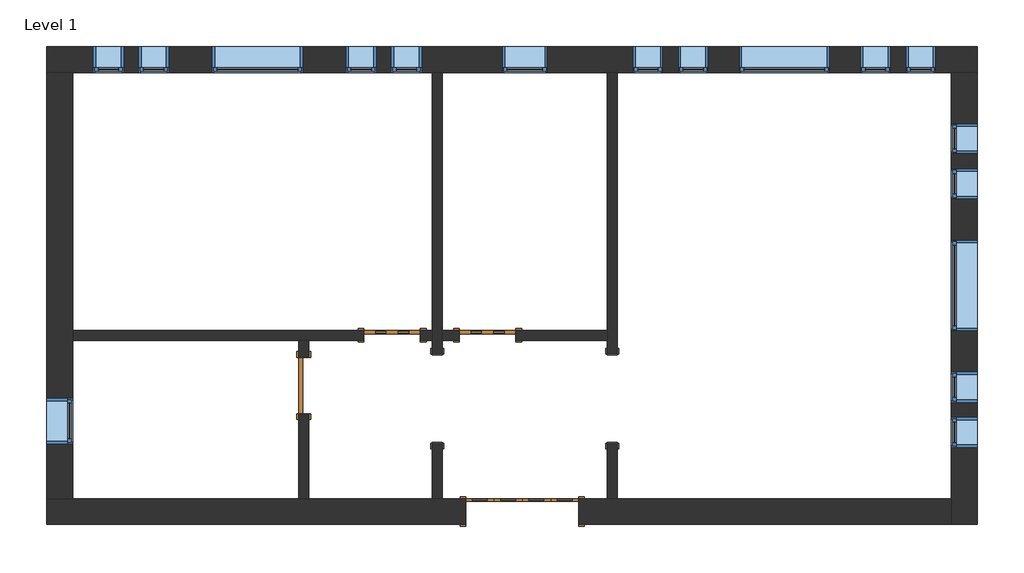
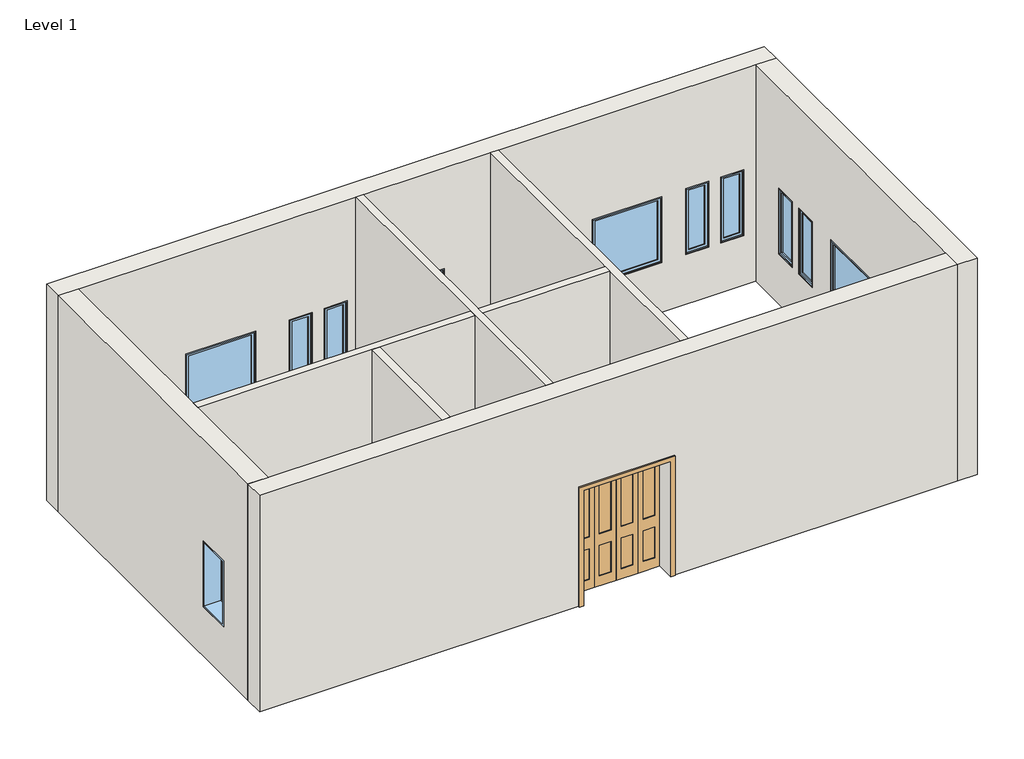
# One storey: 17 windows, 8 walls, 4 doors, 2 proxies.
"""IFC4 building model written with IfcOpenShell, lengths in millimetres."""

from ifc_helpers import new_model, si_unit, frame, origin, place, context, project, spatial, polyline, outline, extrude, faceted_brep, transform, mapped, element, save
from components import m_passage_opening_cased_1220_x_2134mm_87a8d9c2, m_bifold_4_panel_1525_x_2134mm_1ddae71f, m_single_decorative_2_0762_x_2134mm_0d0af7cb, m_single_decorative_2_0762_x_2134mm_2fe67c8e, m_single_flush_0762_x_2134mm_0d89e411, m_fixed_0406_x_1220mm_57fee329, m_fixed_0406_x_1220mm_85c28f40, m_fixed_0610_x_1220mm_2c28ef1d, m_fixed_1220_x_1220mm_e08ff7af

model = new_model("IFC4")

# Units and contexts
model_context = context("Model", 3, world=origin())
ifc_project = project(units=[si_unit("LENGTHUNIT", "METRE", prefix="MILLI")], contexts=[model_context])

# Site, building, storey
site = spatial("IfcSite", under=ifc_project)
building = spatial("IfcBuilding", under=site)
storey = spatial("IfcBuildingStorey", under=building, Name="Level 1", Elevation=0.0)

# Proxies
placement = place(None, origin())
m_passage_opening_cased_1220_x_2134mm_shape = m_passage_opening_cased_1220_x_2134mm_87a8d9c2(model_context)
element("IfcBuildingElementProxy", 1, Name="M_Passage Opening-Cased : 1220 x 2134mm", ObjectType="M_Passage Opening-Cased : 1220 x 2134mm", at=placement, inside=storey, context=model_context, shape_type="MappedRepresentation", body=[
    mapped(m_passage_opening_cased_1220_x_2134mm_shape, transform((-7665.3416203, -1982.6925047, 0.0), x_axis=(0.0, 1.0, 0.0), y_axis=(-1.0, 0.0, 0.0), z_axis=(0.0, 0.0, 1.0))),
])
element("IfcBuildingElementProxy", 2, Name="M_Passage Opening-Cased : 1220 x 2134mm", ObjectType="M_Passage Opening-Cased : 1220 x 2134mm", at=placement, inside=storey, context=model_context, shape_type="MappedRepresentation", body=[
    mapped(m_passage_opening_cased_1220_x_2134mm_shape, transform((-10019.0916203, -1999.0698181, 0.0), x_axis=(0.0, -1.0, 0.0), y_axis=(1.0, 0.0, 0.0), z_axis=(0.0, 0.0, 1.0))),
])

# Doors
m_bifold_4_panel_1525_x_2134mm_shape = m_bifold_4_panel_1525_x_2134mm_1ddae71f(model_context)
element("IfcDoor", 3, ObjectType="M_Bifold-4 Panel : 1525 x 2134mm", at=placement, inside=storey, context=model_context, shape_type="MappedRepresentation", body=[
    mapped(m_bifold_4_panel_1525_x_2134mm_shape, transform((-8876.0916203, -3514.8811614, 0.0), x_axis=(1.0, 0.0, 0.0), y_axis=(0.0, 1.0, 0.0), z_axis=(0.0, 0.0, 1.0))),
])
m_single_decorative_2_0762_x_2134mm_shape = m_single_decorative_2_0762_x_2134mm_0d0af7cb(model_context)
element("IfcDoor", 4, ObjectType="M_Single-Decorative 2 : 0762 x 2134mm", at=placement, inside=storey, context=model_context, shape_type="MappedRepresentation", body=[
    mapped(m_single_decorative_2_0762_x_2134mm_shape, transform((-9342.3416203, -1138.1311614, 0.0), x_axis=(-1.0, 0.0, 0.0), y_axis=(0.0, -1.0, 0.0), z_axis=(0.0, 0.0, 1.0))),
])
m_single_decorative_2_0762_x_2134mm_2_shape = m_single_decorative_2_0762_x_2134mm_2fe67c8e(model_context)
element("IfcDoor", 5, ObjectType="M_Single-Decorative 2 : 0762 x 2134mm", at=placement, inside=storey, context=model_context, shape_type="MappedRepresentation", body=[
    mapped(m_single_decorative_2_0762_x_2134mm_2_shape, transform((-10629.0916203, -1138.1311614, 0.0), x_axis=(1.0, 0.0, 0.0), y_axis=(0.0, 1.0, 0.0), z_axis=(0.0, 0.0, 1.0))),
])
m_single_flush_0762_x_2134mm_shape = m_single_flush_0762_x_2134mm_0d89e411(model_context)
element("IfcDoor", 6, ObjectType="M_Single-Flush : 0762 x 2134mm", at=placement, inside=storey, context=model_context, shape_type="MappedRepresentation", body=[
    mapped(m_single_flush_0762_x_2134mm_shape, transform((-11819.5916203, -1815.8811614, 0.0), x_axis=(0.0, 1.0, 0.0), y_axis=(-1.0, 0.0, 0.0), z_axis=(0.0, 0.0, 1.0))),
])

# Walls
element("IfcWall", 7, ObjectType="Exterior - Brick on Mtl. Stud", at=placement, inside=storey, context=model_context, shape_type="Brep", body=[
    faceted_brep([(-15285.3416203, 2406.1188386, 0.0), (-14935.3416203, 2406.1188386, 0.0), (-10086.8416203, 2406.1188386, 0.0), (-9951.3416203, 2406.1188386, 0.0), (-7733.0916203, 2406.1188386, 0.0), (-7597.5916203, 2406.1188386, 0.0), (-3093.3416203, 2406.1188386, 0.0), (-2743.3416203, 2406.1188386, 0.0), (-2743.3416203, 2406.1188386, 4000.0), (-3093.3416203, 2406.1188386, 4000.0), (-7597.5916203, 2406.1188386, 4000.0), (-7733.0916203, 2406.1188386, 4000.0), (-9951.3416203, 2406.1188386, 4000.0), (-10086.8416203, 2406.1188386, 4000.0), (-14935.3416203, 2406.1188386, 4000.0), (-15285.3416203, 2406.1188386, 4000.0), (-8537.1916203, 2406.1188386, 915.0), (-9147.1916203, 2406.1188386, 915.0), (-9147.1916203, 2406.1188386, 2135.0), (-8537.1916203, 2406.1188386, 2135.0), (-11833.3416203, 2406.1188386, 915.0), (-13053.3416203, 2406.1188386, 915.0), (-13053.3416203, 2406.1188386, 2135.0), (-11833.3416203, 2406.1188386, 2135.0), (-4735.4666203, 2406.1188386, 915.0), (-5955.4666203, 2406.1188386, 915.0), (-5955.4666203, 2406.1188386, 2135.0), (-4735.4666203, 2406.1188386, 2135.0), (-14247.3416203, 2406.1188386, 915.0), (-14653.3416203, 2406.1188386, 915.0), (-14653.3416203, 2406.1188386, 2135.0), (-14247.3416203, 2406.1188386, 2135.0), (-13637.3416203, 2406.1188386, 915.0), (-14043.3416203, 2406.1188386, 915.0), (-14043.3416203, 2406.1188386, 2135.0), (-13637.3416203, 2406.1188386, 2135.0), (-11249.3416203, 2406.1188386, 915.0), (-11249.3416203, 2406.1188386, 2135.0), (-10843.3416203, 2406.1188386, 2135.0), (-10843.3416203, 2406.1188386, 915.0), (-10639.3416203, 2406.1188386, 915.0), (-10639.3416203, 2406.1188386, 2135.0), (-10233.3416203, 2406.1188386, 2135.0), (-10233.3416203, 2406.1188386, 915.0), (-6370.3416203, 2406.1188386, 915.0), (-6776.3416203, 2406.1188386, 915.0), (-6776.3416203, 2406.1188386, 2135.0), (-6370.3416203, 2406.1188386, 2135.0), (-6980.3416203, 2406.1188386, 915.0), (-7386.3416203, 2406.1188386, 915.0), (-7386.3416203, 2406.1188386, 2135.0), (-6980.3416203, 2406.1188386, 2135.0), (-4320.5916203, 2406.1188386, 915.0), (-4320.5916203, 2406.1188386, 2135.0), (-3914.5916203, 2406.1188386, 2135.0), (-3914.5916203, 2406.1188386, 915.0), (-3710.5916203, 2406.1188386, 915.0), (-3710.5916203, 2406.1188386, 2135.0), (-3304.5916203, 2406.1188386, 2135.0), (-3304.5916203, 2406.1188386, 915.0), (-15285.3416203, 2756.1188386, 0.0), (-15285.3416203, 2756.1188386, 4000.0), (-2743.3416203, 2756.1188386, 4000.0), (-2743.3416203, 2756.1188386, 0.0), (-8537.1916203, 2756.1188386, 915.0), (-8537.1916203, 2756.1188386, 2135.0), (-9147.1916203, 2756.1188386, 2135.0), (-9147.1916203, 2756.1188386, 915.0), (-11833.3416203, 2756.1188386, 915.0), (-11833.3416203, 2756.1188386, 2135.0), (-13053.3416203, 2756.1188386, 2135.0), (-13053.3416203, 2756.1188386, 915.0), (-4735.4666203, 2756.1188386, 915.0), (-4735.4666203, 2756.1188386, 2135.0), (-5955.4666203, 2756.1188386, 2135.0), (-5955.4666203, 2756.1188386, 915.0), (-14247.3416203, 2756.1188386, 915.0), (-14247.3416203, 2756.1188386, 2135.0), (-14653.3416203, 2756.1188386, 2135.0), (-14653.3416203, 2756.1188386, 915.0), (-13637.3416203, 2756.1188386, 915.0), (-13637.3416203, 2756.1188386, 2135.0), (-14043.3416203, 2756.1188386, 2135.0), (-14043.3416203, 2756.1188386, 915.0), (-11249.3416203, 2756.1188386, 915.0), (-10843.3416203, 2756.1188386, 915.0), (-10843.3416203, 2756.1188386, 2135.0), (-11249.3416203, 2756.1188386, 2135.0), (-10639.3416203, 2756.1188386, 915.0), (-10233.3416203, 2756.1188386, 915.0), (-10233.3416203, 2756.1188386, 2135.0), (-10639.3416203, 2756.1188386, 2135.0), (-6370.3416203, 2756.1188386, 915.0), (-6370.3416203, 2756.1188386, 2135.0), (-6776.3416203, 2756.1188386, 2135.0), (-6776.3416203, 2756.1188386, 915.0), (-6980.3416203, 2756.1188386, 915.0), (-6980.3416203, 2756.1188386, 2135.0), (-7386.3416203, 2756.1188386, 2135.0), (-7386.3416203, 2756.1188386, 915.0), (-4320.5916203, 2756.1188386, 915.0), (-3914.5916203, 2756.1188386, 915.0), (-3914.5916203, 2756.1188386, 2135.0), (-4320.5916203, 2756.1188386, 2135.0), (-3710.5916203, 2756.1188386, 915.0), (-3304.5916203, 2756.1188386, 915.0), (-3304.5916203, 2756.1188386, 2135.0), (-3710.5916203, 2756.1188386, 2135.0)], [[[0, 1, 2, 3, 4, 5, 6, 7, 8, 9, 10, 11, 12, 13, 14, 15], [16, 17, 18, 19], [20, 21, 22, 23], [24, 25, 26, 27], [28, 29, 30, 31], [32, 33, 34, 35], [36, 37, 38, 39], [40, 41, 42, 43], [44, 45, 46, 47], [48, 49, 50, 51], [52, 53, 54, 55], [56, 57, 58, 59]], [[60, 61, 62, 63], [64, 65, 66, 67], [68, 69, 70, 71], [72, 73, 74, 75], [76, 77, 78, 79], [80, 81, 82, 83], [84, 85, 86, 87], [88, 89, 90, 91], [92, 93, 94, 95], [96, 97, 98, 99], [100, 101, 102, 103], [104, 105, 106, 107]], [[7, 6, 5, 4, 3, 2, 1, 0, 60, 63]], [[15, 14, 13, 12, 11, 10, 9, 8, 62, 61]], [[8, 7, 63, 62]], [[0, 15, 61, 60]], [[65, 64, 16, 19]], [[66, 65, 19, 18]], [[67, 66, 18, 17]], [[64, 67, 17, 16]], [[69, 68, 20, 23]], [[70, 69, 23, 22]], [[71, 70, 22, 21]], [[68, 71, 21, 20]], [[73, 72, 24, 27]], [[74, 73, 27, 26]], [[75, 74, 26, 25]], [[72, 75, 25, 24]], [[77, 76, 28, 31]], [[78, 77, 31, 30]], [[79, 78, 30, 29]], [[76, 79, 29, 28]], [[81, 80, 32, 35]], [[82, 81, 35, 34]], [[83, 82, 34, 33]], [[80, 83, 33, 32]], [[37, 36, 84, 87]], [[38, 37, 87, 86]], [[39, 38, 86, 85]], [[36, 39, 85, 84]], [[41, 40, 88, 91]], [[42, 41, 91, 90]], [[43, 42, 90, 89]], [[40, 43, 89, 88]], [[93, 92, 44, 47]], [[94, 93, 47, 46]], [[95, 94, 46, 45]], [[92, 95, 45, 44]], [[97, 96, 48, 51]], [[98, 97, 51, 50]], [[99, 98, 50, 49]], [[96, 99, 49, 48]], [[53, 52, 100, 103]], [[54, 53, 103, 102]], [[55, 54, 102, 101]], [[52, 55, 101, 100]], [[57, 56, 104, 107]], [[58, 57, 107, 106]], [[59, 58, 106, 105]], [[56, 59, 105, 104]]]),
])
element("IfcWall", 8, ObjectType="Exterior - Brick on Mtl. Stud", at=placement, inside=storey, context=model_context, shape_type="Brep", body=[
    faceted_brep([(-3093.3416203, 2406.1188386, 0.0), (-3093.3416203, -3339.8811614, 0.0), (-3093.3416203, -3689.8811614, 0.0), (-3093.3416203, -3689.8811614, 4000.0), (-3093.3416203, -3339.8811614, 4000.0), (-3093.3416203, 2406.1188386, 4000.0), (-3093.3416203, -1076.8811614, 915.0), (-3093.3416203, 143.1188386, 915.0), (-3093.3416203, 143.1188386, 2135.0), (-3093.3416203, -1076.8811614, 2135.0), (-3093.3416203, 701.1188386, 915.0), (-3093.3416203, 1107.1188386, 915.0), (-3093.3416203, 1107.1188386, 2135.0), (-3093.3416203, 701.1188386, 2135.0), (-3093.3416203, 1311.1188386, 915.0), (-3093.3416203, 1717.1188386, 915.0), (-3093.3416203, 1717.1188386, 2135.0), (-3093.3416203, 1311.1188386, 2135.0), (-3093.3416203, -1634.8811614, 915.0), (-3093.3416203, -1634.8811614, 2135.0), (-3093.3416203, -2040.8811614, 2135.0), (-3093.3416203, -2040.8811614, 915.0), (-3093.3416203, -2244.8811614, 915.0), (-3093.3416203, -2244.8811614, 2135.0), (-3093.3416203, -2650.8811614, 2135.0), (-3093.3416203, -2650.8811614, 915.0), (-2743.3416203, 2406.1188386, 0.0), (-2743.3416203, 2406.1188386, 4000.0), (-2743.3416203, -3689.8811614, 4000.0), (-2743.3416203, -3689.8811614, 0.0), (-2743.3416203, -1076.8811614, 915.0), (-2743.3416203, -1076.8811614, 2135.0), (-2743.3416203, 143.1188386, 2135.0), (-2743.3416203, 143.1188386, 915.0), (-2743.3416203, 701.1188386, 915.0), (-2743.3416203, 701.1188386, 2135.0), (-2743.3416203, 1107.1188386, 2135.0), (-2743.3416203, 1107.1188386, 915.0), (-2743.3416203, 1311.1188386, 915.0), (-2743.3416203, 1311.1188386, 2135.0), (-2743.3416203, 1717.1188386, 2135.0), (-2743.3416203, 1717.1188386, 915.0), (-2743.3416203, -1634.8811614, 915.0), (-2743.3416203, -2040.8811614, 915.0), (-2743.3416203, -2040.8811614, 2135.0), (-2743.3416203, -1634.8811614, 2135.0), (-2743.3416203, -2244.8811614, 915.0), (-2743.3416203, -2650.8811614, 915.0), (-2743.3416203, -2650.8811614, 2135.0), (-2743.3416203, -2244.8811614, 2135.0)], [[[0, 1, 2, 3, 4, 5], [6, 7, 8, 9], [10, 11, 12, 13], [14, 15, 16, 17], [18, 19, 20, 21], [22, 23, 24, 25]], [[26, 27, 28, 29], [30, 31, 32, 33], [34, 35, 36, 37], [38, 39, 40, 41], [42, 43, 44, 45], [46, 47, 48, 49]], [[2, 1, 0, 26, 29]], [[5, 4, 3, 28, 27]], [[0, 5, 27, 26]], [[3, 2, 29, 28]], [[31, 30, 6, 9]], [[32, 31, 9, 8]], [[33, 32, 8, 7]], [[30, 33, 7, 6]], [[35, 34, 10, 13]], [[36, 35, 13, 12]], [[37, 36, 12, 11]], [[34, 37, 11, 10]], [[39, 38, 14, 17]], [[40, 39, 17, 16]], [[41, 40, 16, 15]], [[38, 41, 15, 14]], [[19, 18, 42, 45]], [[20, 19, 45, 44]], [[21, 20, 44, 43]], [[18, 21, 43, 42]], [[23, 22, 46, 49]], [[24, 23, 49, 48]], [[25, 24, 48, 47]], [[22, 25, 47, 46]]]),
])
element("IfcWall", 9, ObjectType="Exterior - Brick on Mtl. Stud", at=placement, inside=storey, context=model_context, shape_type="Brep", body=[
    faceted_brep([(-15285.3416203, -3339.8811614, 4000.0), (-14935.3416203, -3339.8811614, 4000.0), (-11887.3416203, -3339.8811614, 4000.0), (-11751.8416203, -3339.8811614, 4000.0), (-10086.8416203, -3339.8811614, 4000.0), (-9951.3416203, -3339.8811614, 4000.0), (-7733.0916203, -3339.8811614, 4000.0), (-7597.5916203, -3339.8811614, 4000.0), (-3093.3416203, -3339.8811614, 4000.0), (-3093.3416203, -3339.8811614, 0.0), (-7597.5916203, -3339.8811614, 0.0), (-7733.0916203, -3339.8811614, 0.0), (-8113.5916203, -3339.8811614, 0.0), (-8113.5916203, -3339.8811614, 2134.0), (-9638.5916203, -3339.8811614, 2134.0), (-9638.5916203, -3339.8811614, 0.0), (-9951.3416203, -3339.8811614, 0.0), (-10086.8416203, -3339.8811614, 0.0), (-11751.8416203, -3339.8811614, 0.0), (-11887.3416203, -3339.8811614, 0.0), (-14935.3416203, -3339.8811614, 0.0), (-15285.3416203, -3339.8811614, 0.0), (-3093.3416203, -3689.8811614, 4000.0), (-15285.3416203, -3689.8811614, 4000.0), (-15285.3416203, -3689.8811614, 0.0), (-9638.5916203, -3689.8811614, 0.0), (-9638.5916203, -3689.8811614, 2134.0), (-8113.5916203, -3689.8811614, 2134.0), (-8113.5916203, -3689.8811614, 0.0), (-3093.3416203, -3689.8811614, 0.0)], [[[0, 1, 2, 3, 4, 5, 6, 7, 8, 9, 10, 11, 12, 13, 14, 15, 16, 17, 18, 19, 20, 21]], [[22, 23, 24, 25, 26, 27, 28, 29]], [[9, 29, 28, 12, 11, 10]], [[24, 21, 20, 19, 18, 17, 16, 15, 25]], [[8, 7, 6, 5, 4, 3, 2, 1, 0, 23, 22]], [[9, 8, 22, 29]], [[0, 21, 24, 23]], [[27, 13, 12, 28]], [[13, 27, 26, 14]], [[14, 26, 25, 15]]]),
])
element("IfcWall", 10, ObjectType="Exterior - Brick on Mtl. Stud", at=placement, inside=storey, context=model_context, shape_type="Brep", body=[
    faceted_brep([(-14935.3416203, -3339.8811614, 0.0), (-14935.3416203, -1205.8811614, 0.0), (-14935.3416203, -1070.3811614, 0.0), (-14935.3416203, 2406.1188386, 0.0), (-14935.3416203, 2406.1188386, 4000.0), (-14935.3416203, -1070.3811614, 4000.0), (-14935.3416203, -1205.8811614, 4000.0), (-14935.3416203, -3339.8811614, 4000.0), (-14935.3416203, -1989.8811614, 915.0), (-14935.3416203, -2599.8811614, 915.0), (-14935.3416203, -2599.8811614, 2135.0), (-14935.3416203, -1989.8811614, 2135.0), (-15285.3416203, -3339.8811614, 0.0), (-15285.3416203, -3339.8811614, 4000.0), (-15285.3416203, 2406.1188386, 4000.0), (-15285.3416203, 2406.1188386, 0.0), (-15285.3416203, -1989.8811614, 915.0), (-15285.3416203, -1989.8811614, 2135.0), (-15285.3416203, -2599.8811614, 2135.0), (-15285.3416203, -2599.8811614, 915.0)], [[[0, 1, 2, 3, 4, 5, 6, 7], [8, 9, 10, 11]], [[12, 13, 14, 15], [16, 17, 18, 19]], [[3, 2, 1, 0, 12, 15]], [[7, 6, 5, 4, 14, 13]], [[0, 7, 13, 12]], [[4, 3, 15, 14]], [[17, 16, 8, 11]], [[18, 17, 11, 10]], [[19, 18, 10, 9]], [[16, 19, 9, 8]]]),
])
element("IfcWall", 11, ObjectType="Interior - 135mm Partition (2-hr)", at=placement, inside=storey, context=model_context, shape_type="Brep", body=[
    faceted_brep([(-7733.0916203, 2406.1188386, 0.0), (-7733.0916203, -1070.3811614, 0.0), (-7733.0916203, -1205.8811614, 0.0), (-7733.0916203, -1380.8811614, 0.0), (-7733.0916203, -1380.8811614, 2134.0), (-7733.0916203, -2600.8811614, 2134.0), (-7733.0916203, -2600.8811614, 0.0), (-7733.0916203, -3339.8811614, 0.0), (-7733.0916203, -3339.8811614, 4000.0), (-7733.0916203, -1205.8811614, 4000.0), (-7733.0916203, -1070.3811614, 4000.0), (-7733.0916203, 2406.1188386, 4000.0), (-7597.5916203, -1380.8811614, 2134.0), (-7597.5916203, -1380.8811614, 0.0), (-7597.5916203, 2406.1188386, 0.0), (-7597.5916203, 2406.1188386, 4000.0), (-7597.5916203, -3339.8811614, 4000.0), (-7597.5916203, -3339.8811614, 0.0), (-7597.5916203, -2600.8811614, 0.0), (-7597.5916203, -2600.8811614, 2134.0)], [[[0, 1, 2, 3, 4, 5, 6, 7, 8, 9, 10, 11]], [[12, 13, 14, 15, 16, 17, 18, 19]], [[18, 17, 7, 6]], [[14, 13, 3, 2, 1, 0]], [[11, 10, 9, 8, 16, 15]], [[0, 11, 15, 14]], [[8, 7, 17, 16]], [[6, 5, 19, 18]], [[4, 3, 13, 12]], [[5, 4, 12, 19]]]),
])
element("IfcWall", 12, ObjectType="Interior - 135mm Partition (2-hr)", at=placement, inside=storey, context=model_context, shape_type="Brep", body=[
    faceted_brep([(-10086.8416203, -2600.8811614, 2134.0), (-10086.8416203, -2600.8811614, 0.0), (-10086.8416203, -3339.8811614, 0.0), (-10086.8416203, -3339.8811614, 4000.0), (-10086.8416203, -1205.8811614, 4000.0), (-10086.8416203, -1070.3811614, 4000.0), (-10086.8416203, 2406.1188386, 4000.0), (-10086.8416203, 2406.1188386, 0.0), (-10086.8416203, -1070.3811614, 0.0), (-10086.8416203, -1205.8811614, 0.0), (-10086.8416203, -1380.8811614, 0.0), (-10086.8416203, -1380.8811614, 2134.0), (-9951.3416203, -3339.8811614, 0.0), (-9951.3416203, -2600.8811614, 0.0), (-9951.3416203, -2600.8811614, 2134.0), (-9951.3416203, -1380.8811614, 2134.0), (-9951.3416203, -1380.8811614, 0.0), (-9951.3416203, -1205.8811614, 0.0), (-9951.3416203, -1070.3811614, 0.0), (-9951.3416203, 2406.1188386, 0.0), (-9951.3416203, 2406.1188386, 4000.0), (-9951.3416203, -1070.3811614, 4000.0), (-9951.3416203, -1205.8811614, 4000.0), (-9951.3416203, -3339.8811614, 4000.0)], [[[0, 1, 2, 3, 4, 5, 6, 7, 8, 9, 10, 11]], [[12, 13, 14, 15, 16, 17, 18, 19, 20, 21, 22, 23]], [[2, 1, 13, 12]], [[10, 9, 8, 7, 19, 18, 17, 16]], [[6, 5, 4, 3, 23, 22, 21, 20]], [[7, 6, 20, 19]], [[3, 2, 12, 23]], [[16, 15, 11, 10]], [[14, 13, 1, 0]], [[15, 14, 0, 11]]]),
])
element("IfcWall", 13, ObjectType="Interior - 135mm Partition (2-hr)", at=placement, inside=storey, context=model_context, shape_type="Brep", body=[
    faceted_brep([(-14935.3416203, -1205.8811614, 4000.0), (-14935.3416203, -1205.8811614, 0.0), (-11887.3416203, -1205.8811614, 0.0), (-11751.8416203, -1205.8811614, 0.0), (-11010.0916203, -1205.8811614, 0.0), (-11010.0916203, -1205.8811614, 2134.0), (-10248.0916203, -1205.8811614, 2134.0), (-10248.0916203, -1205.8811614, 0.0), (-10086.8416203, -1205.8811614, 0.0), (-10086.8416203, -1205.8811614, 4000.0), (-11751.8416203, -1205.8811614, 4000.0), (-11887.3416203, -1205.8811614, 4000.0), (-14935.3416203, -1070.3811614, 0.0), (-14935.3416203, -1070.3811614, 4000.0), (-10086.8416203, -1070.3811614, 4000.0), (-10086.8416203, -1070.3811614, 0.0), (-10248.0916203, -1070.3811614, 0.0), (-10248.0916203, -1070.3811614, 2134.0), (-11010.0916203, -1070.3811614, 2134.0), (-11010.0916203, -1070.3811614, 0.0)], [[[0, 1, 2, 3, 4, 5, 6, 7, 8, 9, 10, 11]], [[12, 13, 14, 15, 16, 17, 18, 19]], [[1, 12, 19, 4, 3, 2]], [[7, 16, 15, 8]], [[13, 0, 11, 10, 9, 14]], [[1, 0, 13, 12]], [[9, 8, 15, 14]], [[17, 16, 7, 6]], [[18, 17, 6, 5]], [[19, 18, 5, 4]]]),
    faceted_brep([(-7733.0916203, -1205.8811614, 0.0), (-7733.0916203, -1205.8811614, 4000.0), (-9951.3416203, -1205.8811614, 4000.0), (-9951.3416203, -1205.8811614, 0.0), (-9723.3416203, -1205.8811614, 0.0), (-9723.3416203, -1205.8811614, 2134.0), (-8961.3416203, -1205.8811614, 2134.0), (-8961.3416203, -1205.8811614, 0.0), (-7733.0916203, -1070.3811614, 4000.0), (-7733.0916203, -1070.3811614, 0.0), (-8961.3416203, -1070.3811614, 0.0), (-8961.3416203, -1070.3811614, 2134.0), (-9723.3416203, -1070.3811614, 2134.0), (-9723.3416203, -1070.3811614, 0.0), (-9951.3416203, -1070.3811614, 0.0), (-9951.3416203, -1070.3811614, 4000.0)], [[[0, 1, 2, 3, 4, 5, 6, 7]], [[8, 9, 10, 11, 12, 13, 14, 15]], [[9, 0, 7, 10]], [[13, 4, 3, 14]], [[1, 8, 15, 2]], [[1, 0, 9, 8]], [[3, 2, 15, 14]], [[5, 4, 13, 12]], [[6, 5, 12, 11]], [[7, 6, 11, 10]]]),
])
element("IfcWall", 14, ObjectType="Interior - 135mm Partition (2-hr)", at=placement, inside=storey, context=model_context, shape_type="SweptSolid", body=[
    extrude(outline(polyline([(-1205.8811614, 0.0), (-1434.8811614, 0.0), (-1434.8811614, 2134.0), (-2196.8811614, 2134.0), (-2196.8811614, 0.0), (-3339.8811614, 0.0), (-3339.8811614, 4000.0), (-1205.8811614, 4000.0), (-1205.8811614, 0.0)])), frame((-11887.3416203, 0.0, 0.0), z_axis=(1.0, 0.0, 0.0), x_axis=(0.0, 1.0, 0.0)), (0.0, 0.0, 1.0), 135.5),
])

# Windows
m_fixed_0406_x_1220mm_shape = m_fixed_0406_x_1220mm_57fee329(model_context)
element("IfcWindow", 15, ObjectType="M_Fixed : 0406 x 1220mm", at=placement, inside=storey, context=model_context, shape_type="MappedRepresentation", body=[
    mapped(m_fixed_0406_x_1220mm_shape, transform((-14450.3416203, 2594.1188386, 0.0), x_axis=(-1.0, 0.0, 0.0), y_axis=(0.0, -1.0, 0.0), z_axis=(0.0, 0.0, 1.0))),
])
element("IfcWindow", 16, ObjectType="M_Fixed : 0406 x 1220mm", at=placement, inside=storey, context=model_context, shape_type="MappedRepresentation", body=[
    mapped(m_fixed_0406_x_1220mm_shape, transform((-13840.3416203, 2594.1188386, 0.0), x_axis=(-1.0, 0.0, 0.0), y_axis=(0.0, -1.0, 0.0), z_axis=(0.0, 0.0, 1.0))),
])
element("IfcWindow", 17, ObjectType="M_Fixed : 0406 x 1220mm", at=placement, inside=storey, context=model_context, shape_type="MappedRepresentation", body=[
    mapped(m_fixed_0406_x_1220mm_shape, transform((-7183.3416203, 2594.1188386, 0.0), x_axis=(-1.0, 0.0, 0.0), y_axis=(0.0, -1.0, 0.0), z_axis=(0.0, 0.0, 1.0))),
])
element("IfcWindow", 18, ObjectType="M_Fixed : 0406 x 1220mm", at=placement, inside=storey, context=model_context, shape_type="MappedRepresentation", body=[
    mapped(m_fixed_0406_x_1220mm_shape, transform((-6573.3416203, 2594.1188386, 0.0), x_axis=(-1.0, 0.0, 0.0), y_axis=(0.0, -1.0, 0.0), z_axis=(0.0, 0.0, 1.0))),
])
element("IfcWindow", 19, ObjectType="M_Fixed : 0406 x 1220mm", at=placement, inside=storey, context=model_context, shape_type="MappedRepresentation", body=[
    mapped(m_fixed_0406_x_1220mm_shape, transform((-2905.3416203, 1514.1188386, 0.0), x_axis=(0.0, 1.0, 0.0), y_axis=(-1.0, 0.0, 0.0), z_axis=(0.0, 0.0, 1.0))),
])
element("IfcWindow", 20, ObjectType="M_Fixed : 0406 x 1220mm", at=placement, inside=storey, context=model_context, shape_type="MappedRepresentation", body=[
    mapped(m_fixed_0406_x_1220mm_shape, transform((-2905.3416203, 904.1188386, 0.0), x_axis=(0.0, 1.0, 0.0), y_axis=(-1.0, 0.0, 0.0), z_axis=(0.0, 0.0, 1.0))),
])
m_fixed_0406_x_1220mm_2_shape = m_fixed_0406_x_1220mm_85c28f40(model_context)
element("IfcWindow", 21, ObjectType="M_Fixed : 0406 x 1220mm", at=placement, inside=storey, context=model_context, shape_type="MappedRepresentation", body=[
    mapped(m_fixed_0406_x_1220mm_2_shape, transform((-10436.3416203, 2594.1188386, 0.0), x_axis=(1.0, 0.0, 0.0), y_axis=(0.0, 1.0, 0.0), z_axis=(0.0, 0.0, 1.0))),
])
element("IfcWindow", 22, ObjectType="M_Fixed : 0406 x 1220mm", at=placement, inside=storey, context=model_context, shape_type="MappedRepresentation", body=[
    mapped(m_fixed_0406_x_1220mm_2_shape, transform((-11046.3416203, 2594.1188386, 0.0), x_axis=(1.0, 0.0, 0.0), y_axis=(0.0, 1.0, 0.0), z_axis=(0.0, 0.0, 1.0))),
])
element("IfcWindow", 23, ObjectType="M_Fixed : 0406 x 1220mm", at=placement, inside=storey, context=model_context, shape_type="MappedRepresentation", body=[
    mapped(m_fixed_0406_x_1220mm_2_shape, transform((-3507.5916203, 2594.1188386, 0.0), x_axis=(1.0, 0.0, 0.0), y_axis=(0.0, 1.0, 0.0), z_axis=(0.0, 0.0, 1.0))),
])
element("IfcWindow", 24, ObjectType="M_Fixed : 0406 x 1220mm", at=placement, inside=storey, context=model_context, shape_type="MappedRepresentation", body=[
    mapped(m_fixed_0406_x_1220mm_2_shape, transform((-4117.5916203, 2594.1188386, 0.0), x_axis=(1.0, 0.0, 0.0), y_axis=(0.0, 1.0, 0.0), z_axis=(0.0, 0.0, 1.0))),
])
element("IfcWindow", 25, ObjectType="M_Fixed : 0406 x 1220mm", at=placement, inside=storey, context=model_context, shape_type="MappedRepresentation", body=[
    mapped(m_fixed_0406_x_1220mm_2_shape, transform((-2905.3416203, -2447.8811614, 0.0), x_axis=(0.0, -1.0, 0.0), y_axis=(1.0, 0.0, 0.0), z_axis=(0.0, 0.0, 1.0))),
])
element("IfcWindow", 26, ObjectType="M_Fixed : 0406 x 1220mm", at=placement, inside=storey, context=model_context, shape_type="MappedRepresentation", body=[
    mapped(m_fixed_0406_x_1220mm_2_shape, transform((-2905.3416203, -1837.8811614, 0.0), x_axis=(0.0, -1.0, 0.0), y_axis=(1.0, 0.0, 0.0), z_axis=(0.0, 0.0, 1.0))),
])
m_fixed_0610_x_1220mm_shape = m_fixed_0610_x_1220mm_2c28ef1d(model_context)
element("IfcWindow", 27, ObjectType="M_Fixed : 0610 x 1220mm", at=placement, inside=storey, context=model_context, shape_type="MappedRepresentation", body=[
    mapped(m_fixed_0610_x_1220mm_shape, transform((-8842.1916203, 2594.1188386, 0.0), x_axis=(-1.0, 0.0, 0.0), y_axis=(0.0, -1.0, 0.0), z_axis=(0.0, 0.0, 1.0))),
])
element("IfcWindow", 28, ObjectType="M_Fixed : 0610 x 1220mm", at=placement, inside=storey, context=model_context, shape_type="MappedRepresentation", body=[
    mapped(m_fixed_0610_x_1220mm_shape, transform((-15123.3416203, -2294.8811614, 0.0), x_axis=(0.0, -1.0, 0.0), y_axis=(1.0, 0.0, 0.0), z_axis=(0.0, 0.0, 1.0))),
])
m_fixed_1220_x_1220mm_shape = m_fixed_1220_x_1220mm_e08ff7af(model_context)
element("IfcWindow", 29, ObjectType="M_Fixed : 1220 x 1220mm", at=placement, inside=storey, context=model_context, shape_type="MappedRepresentation", body=[
    mapped(m_fixed_1220_x_1220mm_shape, transform((-12443.3416203, 2594.1188386, 0.0), x_axis=(-1.0, 0.0, 0.0), y_axis=(0.0, -1.0, 0.0), z_axis=(0.0, 0.0, 1.0))),
])
element("IfcWindow", 30, ObjectType="M_Fixed : 1220 x 1220mm", at=placement, inside=storey, context=model_context, shape_type="MappedRepresentation", body=[
    mapped(m_fixed_1220_x_1220mm_shape, transform((-5345.4666203, 2594.1188386, 0.0), x_axis=(-1.0, 0.0, 0.0), y_axis=(0.0, -1.0, 0.0), z_axis=(0.0, 0.0, 1.0))),
])
element("IfcWindow", 31, ObjectType="M_Fixed : 1220 x 1220mm", at=placement, inside=storey, context=model_context, shape_type="MappedRepresentation", body=[
    mapped(m_fixed_1220_x_1220mm_shape, transform((-2905.3416203, -466.8811614, 0.0), x_axis=(0.0, 1.0, 0.0), y_axis=(-1.0, 0.0, 0.0), z_axis=(0.0, 0.0, 1.0))),
])

save(model, "model.ifc")
